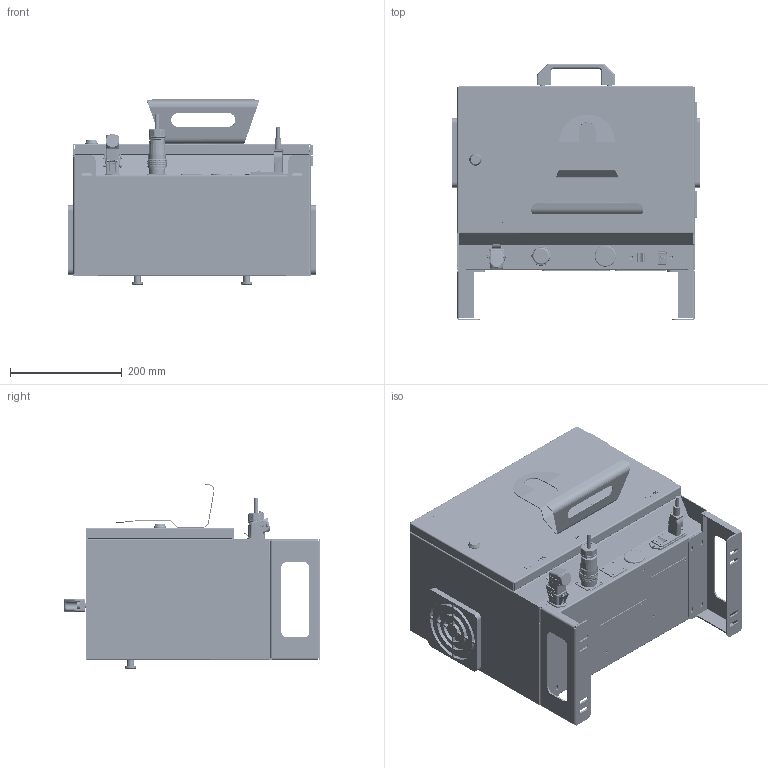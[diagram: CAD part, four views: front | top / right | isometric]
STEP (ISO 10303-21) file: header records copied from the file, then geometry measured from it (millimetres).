
FILE_DESCRIPTION (( 'STEP AP214' ), '1' );
FILE_NAME ('1KW2KW×°ÅäÌå20240510Íâ·¢Ä£ÐÍ.STEP', '2024-10-22T09:12:40', ( '' ), ( '' ), 'SwSTEP 2.0', 'SolidWorks 2022', '' );
FILE_SCHEMA (( 'AUTOMOTIVE_DESIGN' ));
Length unit declared in the file: millimetre
Products named in the file (309): Submodel-noModelForPart_2SB1198_2328736835_1; placementOutline_80_66; Submodel-0603-18K_slash_F_YAGEO_2289471816_part_R0603_1; Submodel-noModelForPart_20.06.0180_30K_50PPM_1_slash_16W_0402_1618800030_1; G9SE-221-T05 安全继电器; placementOutline_80_37; Submodel-2SD1898T100R_3272061056_part_LC-SOT-89_lpar_SOT-89-3_rpar__1; Submodel-39K_5_pct__1_slash_4W_1206_1040059412_part_R1206-2_1; Submodel-noModelForPart_1UF_10_pct__100V_1206_2335051517_2; uid__9223372036872740630_1; Submodel-noModelForPart_21.08.0423_0.1UF_10_pct__16V_0402_1019448803_2; placementOutline_80_41; pxc_1717732_03_GMKDS-1-5-3-7-62_3D; Submodel-noModelForPart_21.08.0551_0.1UF_10_pct__100V_0805_4018880626_1; placementOutline_80_48; HREF-01-05-15-16 电源封板; Submodel-noModelForPart_DTC143ZE_1928999827_1; Submodel-noModelForPart_0402-1K_1834312337_1; Submodel-noModelForPart_SMF36A_2255027146_1; Submodel-MMSZ5244BS_1251786499_part_SOD-323_L1.8-W1.3-LS2.5-RD_1; placementOutline_80_19; Submodel-1206_6.8_5_pct__1_slash_4W_1040059412_part_R1206-2_1; LED-00DGR0010_2_1; placementOutline_80_23; Submodel-noModelForPart_10UF_10_pct__50V_1206_2335051517_1; Submodel-TP_SMT_1736390430_part_TP_SMT_2; HREF-01-05-15-20 能量信号挡板; placementOutline_80; Submodel-0603-33K_slash_F_YAGEO_1618800030_part_R0603_1; pxc_1704936_04_MKDS-5-3-7-62_3D; Submodel-510_1_pct__1_slash_4W_0805_630684950_part_R0805_1; HREF-01-05-02-23A_00; Submodel-noModelForPart_42.02.90177_TPS3702CX33DDCT_1700671615_1; placementOutline_80_49; Submodel-noModelForPart_WJ2EDGRC-5.08-4P_2546888853_1; 094747470XX_100789546MOD000A; placementOutline_80_60; placementOutline_80_3; Submodel-noModelForPart_56PF_10_pct__50V_0603_3673883441_2; 3-84025900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
Assembly tree (641 placements, depth 6):
  1KW2KW装配体20240510外发模型
    HREF-01-05-15-01 外壳
    黑色铝合金拉手
    HREF-01-05-15-04 正面插头_安装板
    LRS-100-24
    LRS-75-12
    能量泄放板3D图  x2
    G9SE-221-T05 安全继电器
    继电器板
      继电器板3D图
      pxc_1704936_04_MKDS-5-3-7-62_3D
        mkds_5-3-7.62
      pxc_1717732_03_GMKDS-1-5-3-7-62_3D  x4
        gmkds_1.5-3-7.62
      559170830
    系统板20230215
    EB-9379-2-1_1_ASM
      VGA-C_1W3__1
      USB-2_0-JC0DUSB2305H_2
      PCB_EB-9379-2-1
      UEA1112C-8HS6-4F_1
      ZUO1_1
      _M2001_10001
      LED-00DGR0010_2_1
    LSBWRK6_55  x4
    LSBWRK6_40_LSBWRK6-40  x2
    FN282-10-06_000
    SA2813-S26S00
    _GMC_3225_KSS000
    HREF-01-05-02-19A 正面插头_底孔盖板
    HREF-01-05-15-14 滤波器保护罩
    HREF-01-05-15-02 正面插头_门
    HHPMGS_5-part2  x2
    HHPMGS_5-part1  x2
    管状锁（带锁舌）PT-1-2C101-20B-KA SOUTHCO(PT-T209)
      索斯科
      索斯科_锁舌
    HREF-01-05-02-06A_00
    LSBWRK6_15  x2
    LSBWRK6_20  x2
    DB9
    FN2010-16-06
    HREF-01-05-15-06 支架1
    HREF-01-05-15-07 支架2
    LSBWRK6_7  x12
    HREF-01-05-15-08 正面插头_系统板挡板
    HREF-01-05-15-09 工控机盖板
    HREF-01-05-01-26A 示教器支板3
    HREF-01-05-02-23A_00  x2
    HEXAGON_SOCKET_HEAD_CAP_-794169_1  x2
    FRNUT6_1  x2
    2000  x3
    000_2  x15
    _M4X80001_ASM  x4
      2-919200
      1-74748600
      3-84025900
    HREF-01-05-15-16 电源封板
    HREF-01-05-15-20 能量信号挡板
    HREF-01-05-15-19 线架
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Bounding box: 445.2 x 459.91 x 331.31 mm (x, y, z)
Volume: 3557676.8 mm3; surface area: 3112194.7 mm2
Topology: 785 solids, 870 shells, 25902 faces, 66445 edges, 43310 vertices
Faces by surface type: plane 15042, cylinder 5966, bspline 4099, cone 692, torus 94, sphere 9
Entity records: 954053 total; most frequent: CARTESIAN_POINT 377065, ORIENTED_EDGE 105993, DIRECTION 85617, EDGE_CURVE 53065, VERTEX_POINT 34753, VECTOR 34181, LINE 34181, AXIS2_PLACEMENT_3D 25718
